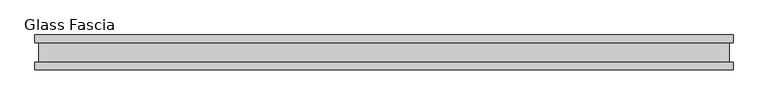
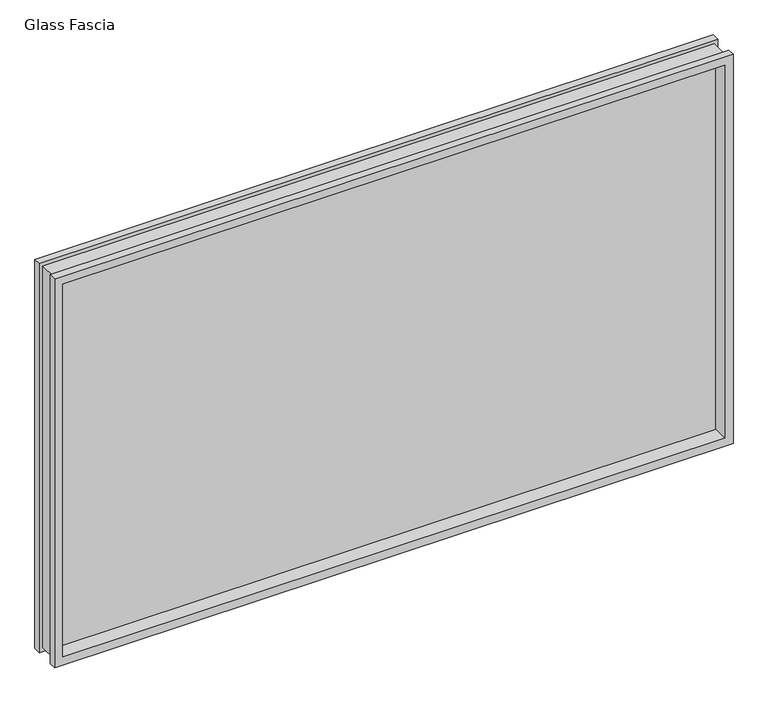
"""IFC4 building model written with IfcOpenShell, lengths in millimetres: proxy geometry, Panel-Fascia-Teknion-Altos-Glass : Glass Fascia."""

from ifc_helpers import new_model, si_unit, frame, origin, place, context, project, spatial, polyline, outline, extrude, faceted_brep, source, transform, mapped, element, save


def glass_fascia_9f460d6d(model_context):
    return source(origin(), model_context, "Body", "SolidModel", [
        faceted_brep([(985.6995219, -5.0827449, 1201.5625243), (985.6995219, 5.0827449, 1201.5625243), (985.6995219, 5.0827449, 17.6374757), (985.6995219, -5.0827449, 17.6374757), (1000.1619976, -28.8801202, 1216.025), (1000.1619976, -50.0558594, 1216.025), (1000.1619976, -50.0558594, 3.175), (1000.1619976, -28.8801202, 3.175), (989.3369977, 28.2698798, 1205.2000001), (989.3369977, -28.8801202, 1205.2000001), (989.3369977, -28.8801202, 13.9999999), (989.3369977, 28.2698798, 13.9999999), (1000.1619976, 50.0558594, 1216.025), (1000.1619976, 28.2698798, 1216.025), (1000.1619976, 28.2698798, 3.175), (1000.1619976, 50.0558594, 3.175), (-985.6995219, 5.0827449, 17.6374757), (-985.6995219, -5.0827449, 17.6374757), (-1000.1619976, -50.0558594, 3.175), (-1000.1619976, -28.8801202, 3.175), (-989.3369977, -28.8801202, 13.9999999), (-989.3369977, 28.2698798, 13.9999999), (-1000.1619976, 28.2698798, 3.175), (-1000.1619976, 50.0558594, 3.175), (-985.6995219, 5.0827449, 1201.5625243), (-985.6995219, -5.0827449, 1201.5625243), (-1000.1619976, -50.0558594, 1216.025), (-1000.1619976, -28.8801202, 1216.025), (-989.3369977, -28.8801202, 1205.2000001), (-989.3369977, 28.2698798, 1205.2000001), (-1000.1619976, 28.2698798, 1216.025), (-1000.1619976, 50.0558594, 1216.025), (975.2093308, 50.0558594, 1191.0723332), (-975.2093308, 50.0558594, 1191.0723332), (-975.2093308, 50.0558594, 28.1276668), (975.2093308, 50.0558594, 28.1276668), (975.2093308, 5.0827449, 28.1276668), (-975.2093308, 5.0827449, 28.1276668), (-975.2093308, 5.0827449, 1191.0723332), (975.2093308, 5.0827449, 1191.0723332), (975.2093308, -5.0827449, 1191.0723332), (-975.2093308, -5.0827449, 1191.0723332), (-975.2093308, -5.0827449, 28.1276668), (975.2093308, -5.0827449, 28.1276668), (975.2093308, -50.0558594, 28.1276668), (-975.2093308, -50.0558594, 28.1276668), (-975.2093308, -50.0558594, 1191.0723332), (975.2093308, -50.0558594, 1191.0723332)], [[[0, 1, 2, 3]], [[4, 5, 6, 7]], [[8, 9, 10, 11]], [[12, 13, 14, 15]], [[3, 2, 16, 17]], [[7, 6, 18, 19]], [[11, 10, 20, 21]], [[15, 14, 22, 23]], [[17, 16, 24, 25]], [[19, 18, 26, 27]], [[21, 20, 28, 29]], [[23, 22, 30, 31]], [[15, 23, 31, 12], [32, 33, 34, 35]], [[1, 24, 16, 2], [36, 37, 38, 39]], [[25, 24, 1, 0]], [[3, 17, 25, 0], [40, 41, 42, 43]], [[5, 26, 18, 6], [44, 45, 46, 47]], [[27, 26, 5, 4]], [[7, 19, 27, 4], [9, 28, 20, 10]], [[29, 28, 9, 8]], [[13, 30, 22, 14], [11, 21, 29, 8]], [[31, 30, 13, 12]], [[39, 32, 35, 36]], [[47, 40, 43, 44]], [[36, 35, 34, 37]], [[44, 43, 42, 45]], [[37, 34, 33, 38]], [[45, 42, 41, 46]], [[38, 33, 32, 39]], [[46, 41, 40, 47]]]),
        extrude(outline(polyline([(985.6995219, 2.9765625), (985.6995219, -2.9765625), (-985.6995219, -2.9765625), (-985.6995219, 2.9765625), (985.6995219, 2.9765625)])), frame((0.0, 0.0, 17.6374757), z_axis=(0.0, 0.0, 1.0), x_axis=(1.0, 0.0, 0.0)), (0.0, 0.0, 1.0), 1183.9250485),
    ])


if __name__ == "__main__":
    model = new_model("IFC4")
    model_context = context("Model", 3, world=origin())
    ifc_project = project(units=[si_unit("LENGTHUNIT", "METRE", prefix="MILLI")], contexts=[model_context])
    site = spatial("IfcSite", under=ifc_project)
    building = spatial("IfcBuilding", under=site)
    placement = place(None, origin())
    glass_fascia_shape = glass_fascia_9f460d6d(model_context)
    element("IfcBuildingElementProxy", 1, Name="Panel-Fascia-Teknion-Altos-Glass : Glass Fascia", ObjectType="Panel-Fascia-Teknion-Altos-Glass : Glass Fascia", at=placement, inside=building, context=model_context, shape_type="MappedRepresentation", body=[
        mapped(glass_fascia_shape, transform((0.0, 0.0, 0.0), x_axis=(1.0, 0.0, 0.0), y_axis=(0.0, 1.0, 0.0), z_axis=(0.0, 0.0, 1.0))),
    ])
    save(model, "model.ifc")
